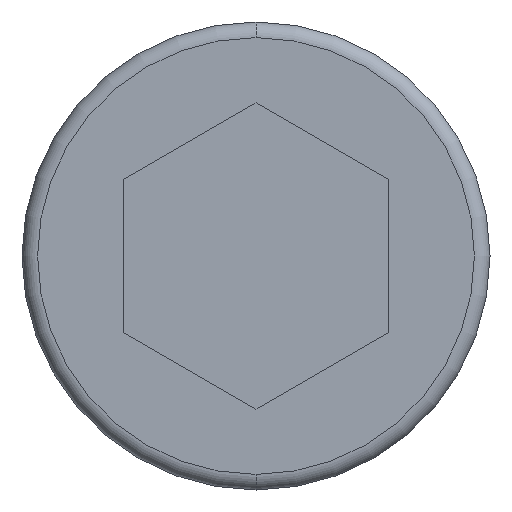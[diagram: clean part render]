
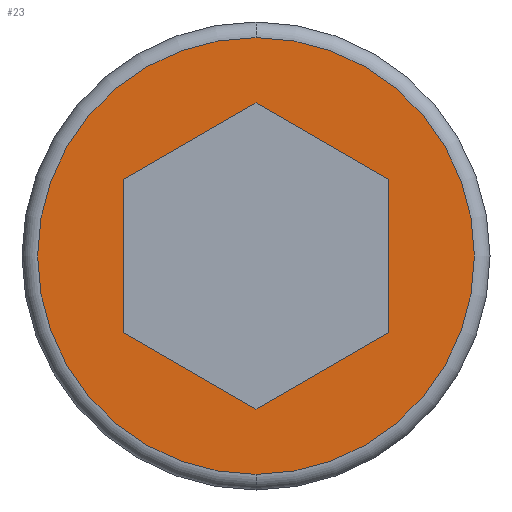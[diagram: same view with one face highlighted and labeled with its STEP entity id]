
A CAD part, front view. The second image highlights one B-rep face of the part: STEP entity #23.
In plain terms, the highlighted planar face has unit normal (0, -1, 0).
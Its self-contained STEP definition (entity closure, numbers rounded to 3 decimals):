
#7 = EDGE_LOOP ( 'NONE', ( #94, #478 ) ) ;
#12 = CARTESIAN_POINT ( 'NONE',  ( 8.5, -20., -4.907 ) ) ;
#23 = ADVANCED_FACE ( 'NONE', ( #250, #207 ), #221, .T. ) ;
#31 = DIRECTION ( 'NONE',  ( 0., -1., 0. ) ) ;
#43 = VERTEX_POINT ( 'NONE', #365 ) ;
#47 = VERTEX_POINT ( 'NONE', #191 ) ;
#65 = DIRECTION ( 'NONE',  ( -0.866, 0., -0.5 ) ) ;
#84 = CARTESIAN_POINT ( 'NONE',  ( 0., -20., 0. ) ) ;
#88 = DIRECTION ( 'NONE',  ( 0., -1., 0. ) ) ;
#90 = DIRECTION ( 'NONE',  ( 0., 0., -1. ) ) ;
#94 = ORIENTED_EDGE ( 'NONE', *, *, #104, .T. ) ;
#104 = EDGE_CURVE ( 'NONE', #456, #164, #618, .T. ) ;
#133 = LINE ( 'NONE', #12, #264 ) ;
#138 = EDGE_LOOP ( 'NONE', ( #709, #702, #415, #329, #421, #373 ) ) ;
#159 = CARTESIAN_POINT ( 'NONE',  ( 0., -20., -9.815 ) ) ;
#164 = VERTEX_POINT ( 'NONE', #722 ) ;
#168 = CARTESIAN_POINT ( 'NONE',  ( 8.5, -20., 4.907 ) ) ;
#177 = CARTESIAN_POINT ( 'NONE',  ( -8.5, -20., 4.907 ) ) ;
#189 = DIRECTION ( 'NONE',  ( 0., 0., 1. ) ) ;
#191 = CARTESIAN_POINT ( 'NONE',  ( 0., -20., -9.815 ) ) ;
#198 = VECTOR ( 'NONE', #65, 1000. ) ;
#203 = VECTOR ( 'NONE', #571, 1000. ) ;
#207 = FACE_BOUND ( 'NONE', #138, .T. ) ;
#209 = AXIS2_PLACEMENT_3D ( 'NONE', #710, #585, #601 ) ;
#221 = PLANE ( 'NONE',  #209 ) ;
#226 = DIRECTION ( 'NONE',  ( 0., 0., -1. ) ) ;
#250 = FACE_OUTER_BOUND ( 'NONE', #7, .T. ) ;
#253 = VERTEX_POINT ( 'NONE', #692 ) ;
#254 = VERTEX_POINT ( 'NONE', #748 ) ;
#255 = DIRECTION ( 'NONE',  ( 0., 0., -1. ) ) ;
#260 = EDGE_CURVE ( 'NONE', #164, #456, #681, .T. ) ;
#264 = VECTOR ( 'NONE', #189, 1000. ) ;
#289 = LINE ( 'NONE', #168, #549 ) ;
#315 = EDGE_CURVE ( 'NONE', #520, #43, #133, .T. ) ;
#319 = VECTOR ( 'NONE', #449, 1000. ) ;
#329 = ORIENTED_EDGE ( 'NONE', *, *, #720, .F. ) ;
#338 = AXIS2_PLACEMENT_3D ( 'NONE', #686, #88, #255 ) ;
#343 = EDGE_CURVE ( 'NONE', #254, #366, #662, .T. ) ;
#357 = CARTESIAN_POINT ( 'NONE',  ( 8.5, -20., -4.907 ) ) ;
#361 = EDGE_CURVE ( 'NONE', #43, #254, #289, .T. ) ;
#365 = CARTESIAN_POINT ( 'NONE',  ( 8.5, -20., 4.907 ) ) ;
#366 = VERTEX_POINT ( 'NONE', #755 ) ;
#373 = ORIENTED_EDGE ( 'NONE', *, *, #361, .F. ) ;
#414 = CARTESIAN_POINT ( 'NONE',  ( -8.5, -20., -4.907 ) ) ;
#415 = ORIENTED_EDGE ( 'NONE', *, *, #713, .F. ) ;
#421 = ORIENTED_EDGE ( 'NONE', *, *, #343, .F. ) ;
#433 = VECTOR ( 'NONE', #226, 1000. ) ;
#442 = LINE ( 'NONE', #414, #319 ) ;
#443 = AXIS2_PLACEMENT_3D ( 'NONE', #84, #31, #90 ) ;
#449 = DIRECTION ( 'NONE',  ( 0.866, 0., -0.5 ) ) ;
#456 = VERTEX_POINT ( 'NONE', #602 ) ;
#478 = ORIENTED_EDGE ( 'NONE', *, *, #260, .T. ) ;
#520 = VERTEX_POINT ( 'NONE', #357 ) ;
#549 = VECTOR ( 'NONE', #649, 1000. ) ;
#571 = DIRECTION ( 'NONE',  ( 0.866, 0., 0.5 ) ) ;
#585 = DIRECTION ( 'NONE',  ( 0., -1., 0. ) ) ;
#599 = LINE ( 'NONE', #177, #433 ) ;
#601 = DIRECTION ( 'NONE',  ( 0., 0., -1. ) ) ;
#602 = CARTESIAN_POINT ( 'NONE',  ( 0., -20., -14. ) ) ;
#618 = CIRCLE ( 'NONE', #338, 14. ) ;
#649 = DIRECTION ( 'NONE',  ( -0.866, 0., 0.5 ) ) ;
#662 = LINE ( 'NONE', #673, #198 ) ;
#673 = CARTESIAN_POINT ( 'NONE',  ( 0., -20., 9.815 ) ) ;
#681 = CIRCLE ( 'NONE', #443, 14. ) ;
#686 = CARTESIAN_POINT ( 'NONE',  ( 0., -20., 0. ) ) ;
#692 = CARTESIAN_POINT ( 'NONE',  ( -8.5, -20., -4.907 ) ) ;
#702 = ORIENTED_EDGE ( 'NONE', *, *, #712, .F. ) ;
#709 = ORIENTED_EDGE ( 'NONE', *, *, #315, .F. ) ;
#710 = CARTESIAN_POINT ( 'NONE',  ( 0., -20., 0. ) ) ;
#712 = EDGE_CURVE ( 'NONE', #47, #520, #762, .T. ) ;
#713 = EDGE_CURVE ( 'NONE', #253, #47, #442, .T. ) ;
#720 = EDGE_CURVE ( 'NONE', #366, #253, #599, .T. ) ;
#722 = CARTESIAN_POINT ( 'NONE',  ( 0., -20., 14. ) ) ;
#748 = CARTESIAN_POINT ( 'NONE',  ( 0., -20., 9.815 ) ) ;
#755 = CARTESIAN_POINT ( 'NONE',  ( -8.5, -20., 4.907 ) ) ;
#762 = LINE ( 'NONE', #159, #203 ) ;
